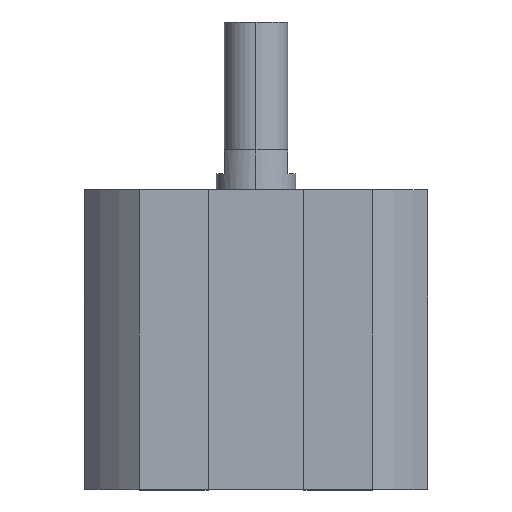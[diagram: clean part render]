
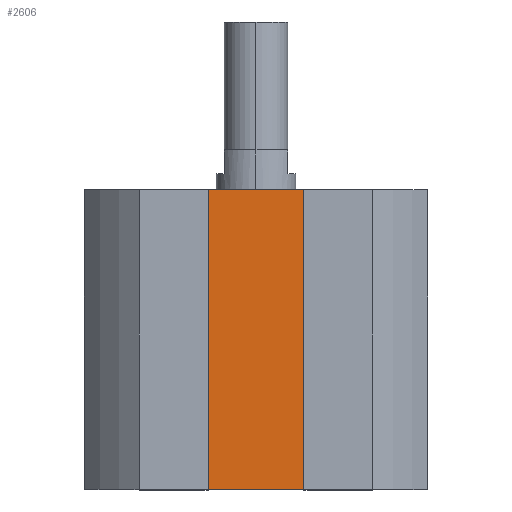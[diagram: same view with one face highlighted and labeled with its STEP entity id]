
A CAD part, top view. The second image highlights one B-rep face of the part: STEP entity #2606.
In plain terms, the highlighted planar face has unit normal (0, 0, 1).
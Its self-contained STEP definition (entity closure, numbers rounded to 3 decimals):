
#29 = DIRECTION ( 'NONE',  ( 1., 0., 0. ) ) ;
#33 = CARTESIAN_POINT ( 'NONE',  ( 7.7, -37.5, 14. ) ) ;
#49 = CARTESIAN_POINT ( 'NONE',  ( 0., -37.5, 14. ) ) ;
#68 = CARTESIAN_POINT ( 'NONE',  ( 0., 0., 14. ) ) ;
#269 = EDGE_CURVE ( 'NONE', #1334, #1700, #1274, .T. ) ;
#372 = CARTESIAN_POINT ( 'NONE',  ( 0., -37.5, 14. ) ) ;
#414 = LINE ( 'NONE', #33, #553 ) ;
#447 = CARTESIAN_POINT ( 'NONE',  ( -7.7, -37.5, 14. ) ) ;
#450 = EDGE_LOOP ( 'NONE', ( #1752, #1619, #1085, #2321 ) ) ;
#475 = CARTESIAN_POINT ( 'NONE',  ( -7.7, -37.5, 14. ) ) ;
#497 = CARTESIAN_POINT ( 'NONE',  ( 7.7, 0., 14. ) ) ;
#553 = VECTOR ( 'NONE', #2548, 1000. ) ;
#577 = DIRECTION ( 'NONE',  ( 1., 0., 0. ) ) ;
#604 = FACE_OUTER_BOUND ( 'NONE', #450, .T. ) ;
#892 = PLANE ( 'NONE',  #2279 ) ;
#905 = DIRECTION ( 'NONE',  ( 0., 1., 0. ) ) ;
#1003 = CARTESIAN_POINT ( 'NONE',  ( -7.7, 0., 14. ) ) ;
#1009 = EDGE_CURVE ( 'NONE', #2715, #2115, #414, .T. ) ;
#1085 = ORIENTED_EDGE ( 'NONE', *, *, #1834, .T. ) ;
#1157 = VECTOR ( 'NONE', #905, 1000. ) ;
#1274 = LINE ( 'NONE', #475, #1157 ) ;
#1287 = DIRECTION ( 'NONE',  ( 0., 0., 1. ) ) ;
#1334 = VERTEX_POINT ( 'NONE', #447 ) ;
#1550 = VECTOR ( 'NONE', #1980, 1000. ) ;
#1619 = ORIENTED_EDGE ( 'NONE', *, *, #269, .F. ) ;
#1652 = LINE ( 'NONE', #372, #2761 ) ;
#1700 = VERTEX_POINT ( 'NONE', #1003 ) ;
#1752 = ORIENTED_EDGE ( 'NONE', *, *, #2072, .F. ) ;
#1834 = EDGE_CURVE ( 'NONE', #1334, #2715, #1652, .T. ) ;
#1980 = DIRECTION ( 'NONE',  ( 1., 0., 0. ) ) ;
#1992 = LINE ( 'NONE', #68, #1550 ) ;
#2072 = EDGE_CURVE ( 'NONE', #1700, #2115, #1992, .T. ) ;
#2115 = VERTEX_POINT ( 'NONE', #497 ) ;
#2279 = AXIS2_PLACEMENT_3D ( 'NONE', #49, #1287, #29 ) ;
#2321 = ORIENTED_EDGE ( 'NONE', *, *, #1009, .T. ) ;
#2548 = DIRECTION ( 'NONE',  ( 0., 1., 0. ) ) ;
#2573 = CARTESIAN_POINT ( 'NONE',  ( 7.7, -37.5, 14. ) ) ;
#2606 = ADVANCED_FACE ( 'NONE', ( #604 ), #892, .T. ) ;
#2715 = VERTEX_POINT ( 'NONE', #2573 ) ;
#2761 = VECTOR ( 'NONE', #577, 1000. ) ;
